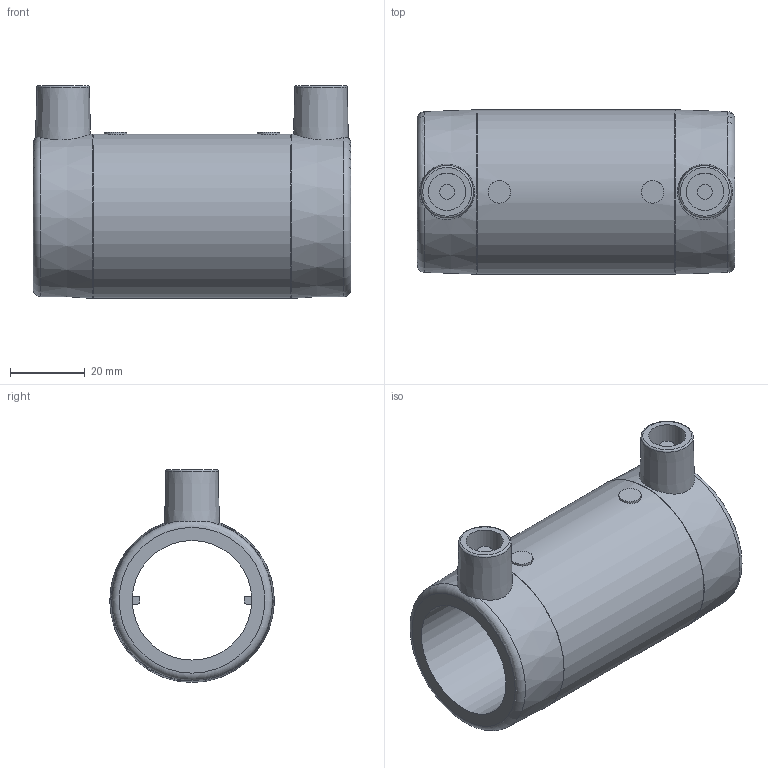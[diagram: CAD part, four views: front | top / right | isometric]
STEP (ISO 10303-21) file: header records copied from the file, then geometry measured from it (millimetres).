
FILE_DESCRIPTION(/* description */ ('Unknown'),/* implementation_level */ '2;1');
FILE_NAME(/* name */ 'MP032H',/* time_stamp */ '2021-05-26T17:06:54+02:00',/* author */ ('Unknown'),/* organization */ ('Unknown'),/* preprocessor_version */ 'ST-DEVELOPER v16.7',/* originating_system */ 'Solid Edge',/* authorisation */ 'Unknown');
FILE_SCHEMA (('AUTOMOTIVE_DESIGN {1 0 10303 214 3 1 1}'));
Length unit declared in the file: millimetre
Products named in the file (1): MP032H
Bounding box: 85 x 44 x 57 mm (x, y, z)
Volume: 62206.8 mm3; surface area: 23526.6 mm2
Topology: 1 solids, 1 shells, 42 faces, 95 edges, 63 vertices
Faces by surface type: plane 20, cylinder 12, torus 6, cone 4
Full cylindrical faces by diameter (mm): 4 x2, 6 x2, 10 x2, 32 x1, 44 x1
Entity records: 1076 total; most frequent: CARTESIAN_POINT 217, DIRECTION 182, ORIENTED_EDGE 132, AXIS2_PLACEMENT_3D 79, EDGE_LOOP 70, FACE_BOUND 70, EDGE_CURVE 66, VERTEX_POINT 52
